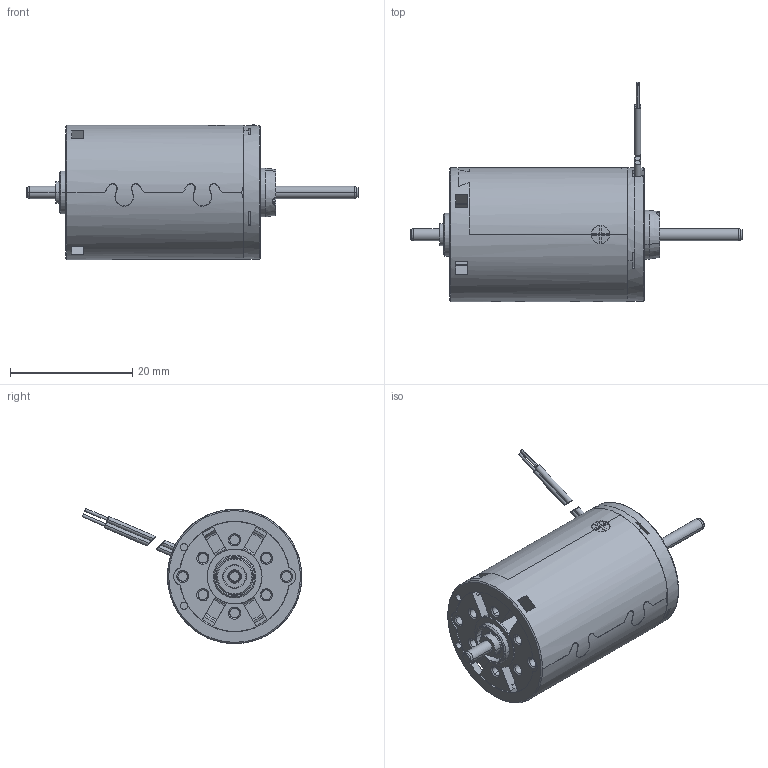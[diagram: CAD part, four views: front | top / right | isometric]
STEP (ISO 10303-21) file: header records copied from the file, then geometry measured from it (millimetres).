
FILE_DESCRIPTION((''),'2;1');
FILE_NAME('139846_SW0001','2016-10-14T',('mmagvisi'),(''),'CREO PARAMETRIC BY PTC INC, 2016050','CREO PARAMETRIC BY PTC INC, 2016050','');
FILE_SCHEMA(('CONFIG_CONTROL_DESIGN'));
Length unit declared in the file: millimetre
Products named in the file (1): 139846_SW0001
Bounding box: 54.4 x 35.96 x 22.16 mm (x, y, z)
Volume: 11961.6 mm3; surface area: 3916.4 mm2
Topology: 3 solids, 3 shells, 322 faces, 827 edges, 535 vertices
Faces by surface type: plane 160, cylinder 99, cone 50, torus 9, bspline 4
Entity records: 15563 total; most frequent: CARTESIAN_POINT 3964, ORIENTED_EDGE 1654, DIRECTION 1531, PRESENTATION_STYLE_ASSIGNMENT 992, STYLED_ITEM 830, CURVE_STYLE 827, EDGE_CURVE 827, AXIS2_PLACEMENT_3D 566
